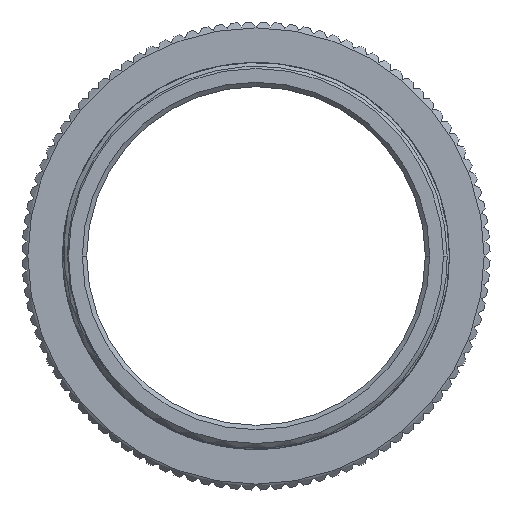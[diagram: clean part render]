
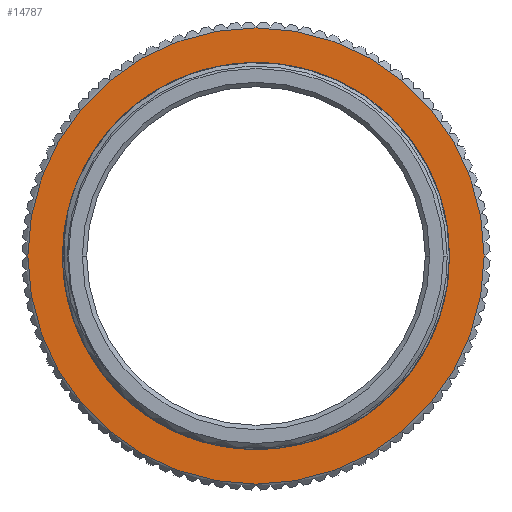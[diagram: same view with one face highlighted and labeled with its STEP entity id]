
A CAD part, front view. The second image highlights one B-rep face of the part: STEP entity #14787.
In plain terms, the highlighted planar face has unit normal (0, -1, 0).
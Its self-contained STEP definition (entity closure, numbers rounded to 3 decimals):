
#7501=CARTESIAN_POINT('',(0.,0.,0.));
#7502=DIRECTION('',(0.,-1.,0.));
#7503=DIRECTION('',(1.,0.,0.));
#7504=AXIS2_PLACEMENT_3D('',#7501,#7502,#7503);
#7506=CARTESIAN_POINT('',(0.,0.,0.));
#7507=DIRECTION('',(0.,-1.,0.));
#7508=DIRECTION('',(-1.,0.,0.));
#7509=AXIS2_PLACEMENT_3D('',#7506,#7507,#7508);
#7519=CARTESIAN_POINT('',(0.,0.,0.));
#7520=DIRECTION('',(0.,-1.,0.));
#7521=DIRECTION('',(0.,0.,-1.));
#7522=AXIS2_PLACEMENT_3D('',#7519,#7520,#7521);
#7524=CARTESIAN_POINT('',(0.,0.,0.));
#7525=DIRECTION('',(0.,1.,0.));
#7526=DIRECTION('',(0.,0.,-1.));
#7527=AXIS2_PLACEMENT_3D('',#7524,#7525,#7526);
#9021=CARTESIAN_POINT('',(15.5,0.,0.));
#9022=CARTESIAN_POINT('',(-15.5,0.,0.));
#9023=VERTEX_POINT('',#9021);
#9024=VERTEX_POINT('',#9022);
#9045=CARTESIAN_POINT('',(0.,0.,-12.75));
#9047=VERTEX_POINT('',#9045);
#9053=CARTESIAN_POINT('',(0.,0.,12.75));
#9055=VERTEX_POINT('',#9053);
#14772=CARTESIAN_POINT('',(0.,0.,0.));
#14773=DIRECTION('',(0.,1.,0.));
#14774=DIRECTION('',(1.,0.,0.));
#14775=AXIS2_PLACEMENT_3D('',#14772,#14773,#14774);
#14776=PLANE('',#14775);
#14777=ORIENTED_EDGE('',*,*,#14519,.F.);
#14778=ORIENTED_EDGE('',*,*,#13747,.F.);
#14779=EDGE_LOOP('',(#14777,#14778));
#14780=FACE_OUTER_BOUND('',#14779,.F.);
#14782=ORIENTED_EDGE('',*,*,#14781,.T.);
#14784=ORIENTED_EDGE('',*,*,#14783,.F.);
#14785=EDGE_LOOP('',(#14782,#14784));
#14786=FACE_BOUND('',#14785,.F.);
#14787=ADVANCED_FACE('',(#14780,#14786),#14776,.F.);
#7505=CIRCLE('',#7504,15.5);
#7510=CIRCLE('',#7509,15.5);
#7523=CIRCLE('',#7522,12.75);
#7528=CIRCLE('',#7527,12.75);
#13747=EDGE_CURVE('',#9024,#9023,#7510,.T.);
#14519=EDGE_CURVE('',#9023,#9024,#7505,.T.);
#14781=EDGE_CURVE('',#9047,#9055,#7523,.T.);
#14783=EDGE_CURVE('',#9047,#9055,#7528,.T.);
